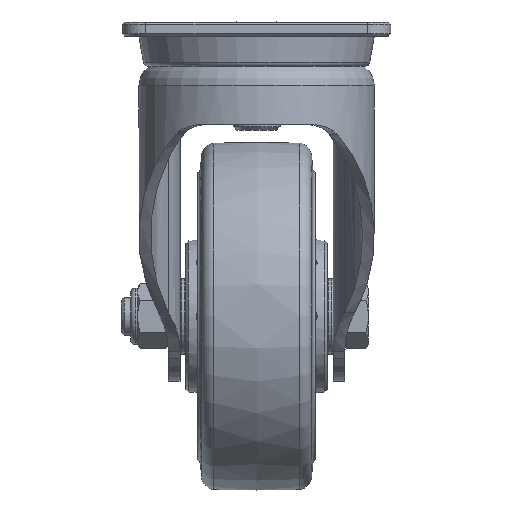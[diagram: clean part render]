
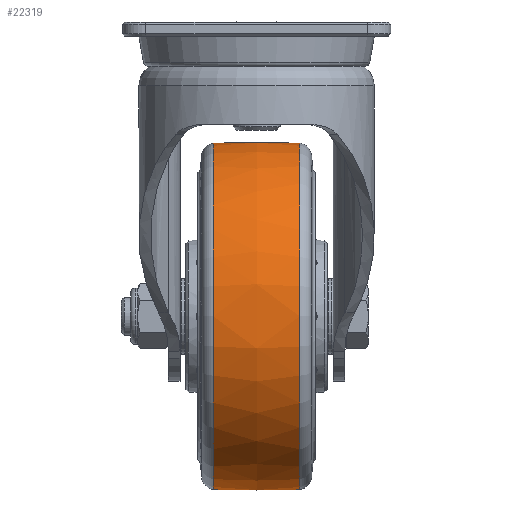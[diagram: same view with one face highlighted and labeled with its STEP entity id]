
A CAD part, left-side view. The second image highlights one B-rep face of the part: STEP entity #22319.
In plain terms, the highlighted free-form (B-spline) face has degree [2, 2] with [3, 9] control points.
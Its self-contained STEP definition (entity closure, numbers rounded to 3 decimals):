
#15=(
BOUNDED_SURFACE()
B_SPLINE_SURFACE(2,2,((#33757,#33758,#33759,#33760,#33761,#33762,#33763,
#33764,#33765),(#33766,#33767,#33768,#33769,#33770,#33771,#33772,#33773,
#33774),(#33775,#33776,#33777,#33778,#33779,#33780,#33781,#33782,#33783)),
 .UNSPECIFIED.,.F.,.T.,.F.)
B_SPLINE_SURFACE_WITH_KNOTS((3,3),(3,2,2,2,3),(-0.153,0.153),
(-3.142,-1.571,0.,1.571,3.142),
 .UNSPECIFIED.)
GEOMETRIC_REPRESENTATION_ITEM()
RATIONAL_B_SPLINE_SURFACE(((1.,0.707,1.,0.707,1.,
0.707,1.,0.707,1.),(0.988,0.699,
0.988,0.699,0.988,0.699,0.988,
0.699,0.988),(1.,0.707,1.,0.707,
1.,0.707,1.,0.707,1.)))
REPRESENTATION_ITEM('')
SURFACE()
);
#3158=FACE_OUTER_BOUND('',#4606,.T.);
#4606=EDGE_LOOP('',(#16626,#16627,#16628,#16629));
#8424=CIRCLE('',#23754,73.595);
#8428=CIRCLE('',#23758,73.595);
#8429=CIRCLE('',#23759,120.);
#9749=VERTEX_POINT('',#33750);
#9752=VERTEX_POINT('',#33784);
#12223=EDGE_CURVE('',#9749,#9749,#8424,.T.);
#12227=EDGE_CURVE('',#9752,#9752,#8428,.T.);
#12228=EDGE_CURVE('',#9752,#9749,#8429,.T.);
#16626=ORIENTED_EDGE('',*,*,#12227,.F.);
#16627=ORIENTED_EDGE('',*,*,#12228,.T.);
#16628=ORIENTED_EDGE('',*,*,#12223,.F.);
#16629=ORIENTED_EDGE('',*,*,#12228,.F.);
#22319=ADVANCED_FACE('',(#3158),#15,.F.);
#23754=AXIS2_PLACEMENT_3D('',#33751,#26415,#26416);
#23758=AXIS2_PLACEMENT_3D('',#33785,#26423,#26424);
#23759=AXIS2_PLACEMENT_3D('',#33786,#26425,#26426);
#26415=DIRECTION('center_axis',(0.,-1.,0.));
#26416=DIRECTION('ref_axis',(0.,0.,
-1.));
#26423=DIRECTION('center_axis',(0.,1.,0.));
#26424=DIRECTION('ref_axis',(0.,0.,
-1.));
#26425=DIRECTION('center_axis',(0.,0.,
-1.));
#26426=DIRECTION('ref_axis',(1.,0.,0.));
#33750=CARTESIAN_POINT('',(138.595,-18.309,-125.025));
#33751=CARTESIAN_POINT('Origin',(65.,-18.309,-125.025));
#33757=CARTESIAN_POINT('Ctrl Pts',(138.595,-18.309,-125.025));
#33758=CARTESIAN_POINT('Ctrl Pts',(138.595,-18.309,-198.62));
#33759=CARTESIAN_POINT('Ctrl Pts',(65.,-18.309,-198.62));
#33760=CARTESIAN_POINT('Ctrl Pts',(-8.595,-18.309,
-198.62));
#33761=CARTESIAN_POINT('Ctrl Pts',(-8.595,-18.309,
-125.025));
#33762=CARTESIAN_POINT('Ctrl Pts',(-8.595,-18.309,
-51.43));
#33763=CARTESIAN_POINT('Ctrl Pts',(65.,-18.309,-51.43));
#33764=CARTESIAN_POINT('Ctrl Pts',(138.595,-18.309,-51.43));
#33765=CARTESIAN_POINT('Ctrl Pts',(138.595,-18.309,-125.025));
#33766=CARTESIAN_POINT('Ctrl Pts',(141.422,0.,
-125.025));
#33767=CARTESIAN_POINT('Ctrl Pts',(141.422,0.,
-201.447));
#33768=CARTESIAN_POINT('Ctrl Pts',(65.,0.,-201.447));
#33769=CARTESIAN_POINT('Ctrl Pts',(-11.422,0.,
-201.447));
#33770=CARTESIAN_POINT('Ctrl Pts',(-11.422,0.,
-125.025));
#33771=CARTESIAN_POINT('Ctrl Pts',(-11.422,0.,
-48.603));
#33772=CARTESIAN_POINT('Ctrl Pts',(65.,0.,-48.603));
#33773=CARTESIAN_POINT('Ctrl Pts',(141.422,0.,
-48.603));
#33774=CARTESIAN_POINT('Ctrl Pts',(141.422,0.,
-125.025));
#33775=CARTESIAN_POINT('Ctrl Pts',(138.595,18.309,-125.025));
#33776=CARTESIAN_POINT('Ctrl Pts',(138.595,18.309,-198.62));
#33777=CARTESIAN_POINT('Ctrl Pts',(65.,18.309,-198.62));
#33778=CARTESIAN_POINT('Ctrl Pts',(-8.595,18.309,-198.62));
#33779=CARTESIAN_POINT('Ctrl Pts',(-8.595,18.309,-125.025));
#33780=CARTESIAN_POINT('Ctrl Pts',(-8.595,18.309,-51.43));
#33781=CARTESIAN_POINT('Ctrl Pts',(65.,18.309,-51.43));
#33782=CARTESIAN_POINT('Ctrl Pts',(138.595,18.309,-51.43));
#33783=CARTESIAN_POINT('Ctrl Pts',(138.595,18.309,-125.025));
#33784=CARTESIAN_POINT('',(138.595,18.309,-125.025));
#33785=CARTESIAN_POINT('Origin',(65.,18.309,-125.025));
#33786=CARTESIAN_POINT('Origin',(20.,0.,-125.025));
